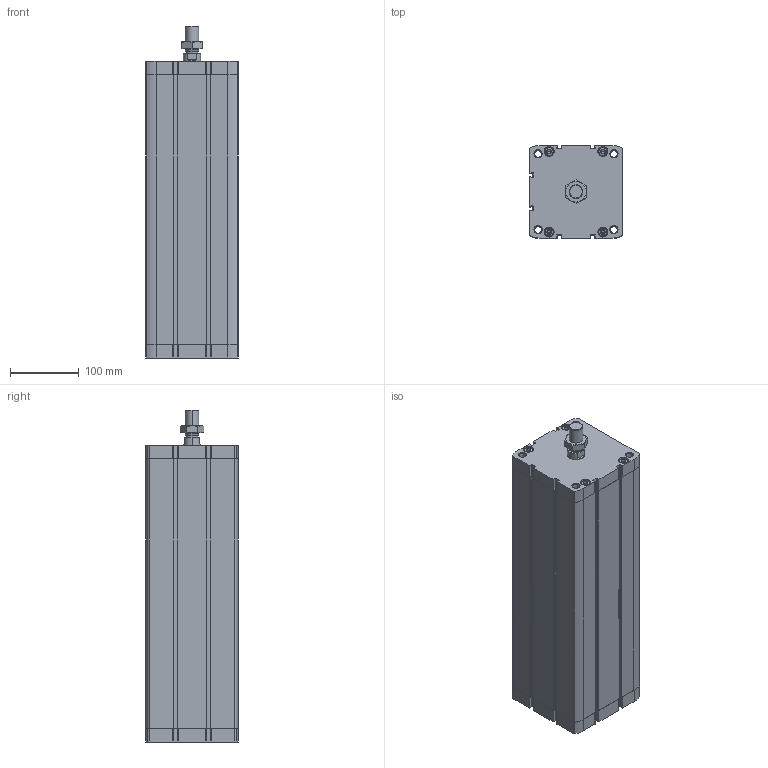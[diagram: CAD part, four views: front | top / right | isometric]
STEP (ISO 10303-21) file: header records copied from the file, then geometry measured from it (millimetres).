
FILE_DESCRIPTION (( 'STEP AP203' ), '1' );
FILE_NAME ('CCN125-350M.STEP', '2020-06-05T19:25:34', ( '' ), ( '' ), 'SwSTEP 2.0', 'SolidWorks 2019', '' );
FILE_SCHEMA (( 'CONFIG_CONTROL_DESIGN' ));
Length unit declared in the file: millimetre
Products named in the file (1): CCN125-350M
Bounding box: 134.6 x 134.6 x 482 mm (x, y, z)
Volume: 3367613.5 mm3; surface area: 603341.8 mm2
Topology: 3 solids, 3 shells, 555 faces, 1412 edges, 886 vertices
Faces by surface type: plane 275, cylinder 196, cone 80, torus 4
Entity records: 18163 total; most frequent: CARTESIAN_POINT 4452, DIRECTION 2966, ORIENTED_EDGE 2792, EDGE_CURVE 1396, AXIS2_PLACEMENT_3D 1092, VERTEX_POINT 886, LINE 782, VECTOR 782
